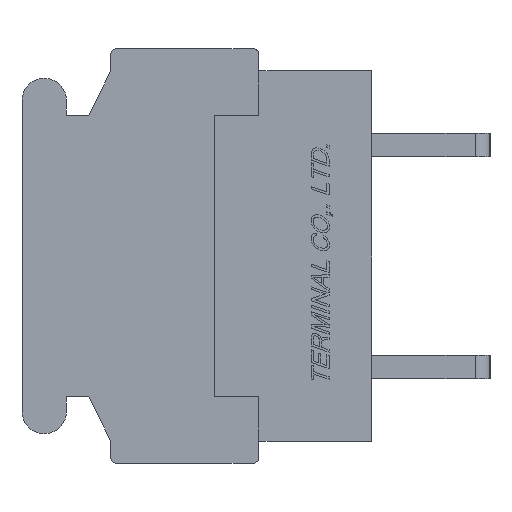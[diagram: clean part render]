
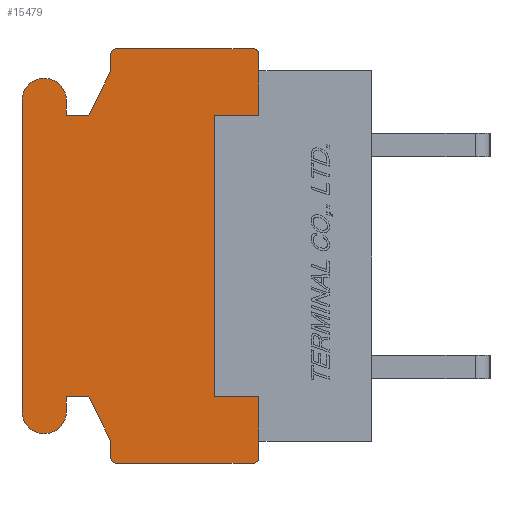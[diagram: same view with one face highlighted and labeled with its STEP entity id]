
A CAD part, left-side view. The second image highlights one B-rep face of the part: STEP entity #15479.
In plain terms, the highlighted planar face has unit normal (-1, 0, 0).
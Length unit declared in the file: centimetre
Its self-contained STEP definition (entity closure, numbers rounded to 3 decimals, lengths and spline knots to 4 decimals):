
#832=CIRCLE('',#26057,0.02);
#833=CIRCLE('',#26061,0.02);
#834=CIRCLE('',#26064,0.02);
#835=CIRCLE('',#26070,0.075);
#836=CIRCLE('',#26073,0.075);
#837=CIRCLE('',#26079,0.02);
#2028=VERTEX_POINT('',#23650);
#2029=VERTEX_POINT('',#23652);
#2030=VERTEX_POINT('',#23656);
#2031=VERTEX_POINT('',#23660);
#2032=VERTEX_POINT('',#23662);
#2033=VERTEX_POINT('',#23666);
#2034=VERTEX_POINT('',#23670);
#2035=VERTEX_POINT('',#23674);
#2036=VERTEX_POINT('',#23678);
#2037=VERTEX_POINT('',#23682);
#2038=VERTEX_POINT('',#23686);
#2039=VERTEX_POINT('',#23690);
#2040=VERTEX_POINT('',#23694);
#2041=VERTEX_POINT('',#23698);
#2042=VERTEX_POINT('',#23702);
#2043=VERTEX_POINT('',#23706);
#2044=VERTEX_POINT('',#23710);
#2045=VERTEX_POINT('',#23714);
#2046=VERTEX_POINT('',#23718);
#2047=VERTEX_POINT('',#23722);
#2048=VERTEX_POINT('',#23728);
#2049=VERTEX_POINT('',#23730);
#2050=VERTEX_POINT('',#23732);
#2051=VERTEX_POINT('',#23734);
#3702=VECTOR('',#18787,1.);
#3704=VECTOR('',#18790,1.);
#3708=VECTOR('',#18799,1.);
#3711=VECTOR('',#18807,1.);
#3713=VECTOR('',#18810,1.);
#3715=VECTOR('',#18813,1.);
#3717=VECTOR('',#18816,1.);
#3720=VECTOR('',#18824,1.);
#3723=VECTOR('',#18832,1.);
#3725=VECTOR('',#18835,1.);
#3727=VECTOR('',#18838,1.);
#3729=VECTOR('',#18841,1.);
#3731=VECTOR('',#18848,1.);
#3732=VECTOR('',#18850,1.);
#3733=VECTOR('',#18851,1.);
#3734=VECTOR('',#18852,1.);
#3735=VECTOR('',#18853,1.);
#3736=VECTOR('',#18854,1.);
#5454=LINE('',#23657,#3702);
#5456=LINE('',#23661,#3704);
#5460=LINE('',#23671,#3708);
#5463=LINE('',#23679,#3711);
#5465=LINE('',#23683,#3713);
#5467=LINE('',#23687,#3715);
#5469=LINE('',#23691,#3717);
#5472=LINE('',#23699,#3720);
#5475=LINE('',#23707,#3723);
#5477=LINE('',#23711,#3725);
#5479=LINE('',#23715,#3727);
#5481=LINE('',#23719,#3729);
#5483=LINE('',#23725,#3731);
#5484=LINE('',#23727,#3732);
#5485=LINE('',#23729,#3733);
#5486=LINE('',#23731,#3734);
#5487=LINE('',#23733,#3735);
#5488=LINE('',#23735,#3736);
#7682=EDGE_CURVE('',#2028,#2029,#832,.T.);
#7685=EDGE_CURVE('',#2030,#2028,#5454,.T.);
#7687=EDGE_CURVE('',#2031,#2032,#5456,.T.);
#7690=EDGE_CURVE('',#2033,#2031,#833,.T.);
#7692=EDGE_CURVE('',#2034,#2033,#5460,.T.);
#7694=EDGE_CURVE('',#2035,#2034,#834,.T.);
#7696=EDGE_CURVE('',#2036,#2035,#5463,.T.);
#7698=EDGE_CURVE('',#2037,#2036,#5465,.T.);
#7700=EDGE_CURVE('',#2038,#2037,#5467,.T.);
#7702=EDGE_CURVE('',#2039,#2038,#5469,.T.);
#7704=EDGE_CURVE('',#2040,#2039,#835,.T.);
#7706=EDGE_CURVE('',#2041,#2040,#5472,.T.);
#7708=EDGE_CURVE('',#2042,#2041,#836,.T.);
#7710=EDGE_CURVE('',#2043,#2042,#5475,.T.);
#7712=EDGE_CURVE('',#2044,#2043,#5477,.T.);
#7714=EDGE_CURVE('',#2045,#2044,#5479,.T.);
#7716=EDGE_CURVE('',#2046,#2045,#5481,.T.);
#7718=EDGE_CURVE('',#2047,#2046,#837,.T.);
#7719=EDGE_CURVE('',#2029,#2047,#5483,.T.);
#7720=EDGE_CURVE('',#2048,#2032,#5484,.T.);
#7721=EDGE_CURVE('',#2030,#2049,#5485,.T.);
#7722=EDGE_CURVE('',#2049,#2050,#5486,.T.);
#7723=EDGE_CURVE('',#2050,#2051,#5487,.T.);
#7724=EDGE_CURVE('',#2051,#2048,#5488,.T.);
#11816=ORIENTED_EDGE('',*,*,#7720,.T.);
#11817=ORIENTED_EDGE('',*,*,#7687,.F.);
#11818=ORIENTED_EDGE('',*,*,#7690,.F.);
#11819=ORIENTED_EDGE('',*,*,#7692,.F.);
#11820=ORIENTED_EDGE('',*,*,#7694,.F.);
#11821=ORIENTED_EDGE('',*,*,#7696,.F.);
#11822=ORIENTED_EDGE('',*,*,#7698,.F.);
#11823=ORIENTED_EDGE('',*,*,#7700,.F.);
#11824=ORIENTED_EDGE('',*,*,#7702,.F.);
#11825=ORIENTED_EDGE('',*,*,#7704,.F.);
#11826=ORIENTED_EDGE('',*,*,#7706,.F.);
#11827=ORIENTED_EDGE('',*,*,#7708,.F.);
#11828=ORIENTED_EDGE('',*,*,#7710,.F.);
#11829=ORIENTED_EDGE('',*,*,#7712,.F.);
#11830=ORIENTED_EDGE('',*,*,#7714,.F.);
#11831=ORIENTED_EDGE('',*,*,#7716,.F.);
#11832=ORIENTED_EDGE('',*,*,#7718,.F.);
#11833=ORIENTED_EDGE('',*,*,#7719,.F.);
#11834=ORIENTED_EDGE('',*,*,#7682,.F.);
#11835=ORIENTED_EDGE('',*,*,#7685,.F.);
#11836=ORIENTED_EDGE('',*,*,#7721,.T.);
#11837=ORIENTED_EDGE('',*,*,#7722,.T.);
#11838=ORIENTED_EDGE('',*,*,#7723,.T.);
#11839=ORIENTED_EDGE('',*,*,#7724,.T.);
#13635=EDGE_LOOP('',(#11816,#11817,#11818,#11819,#11820,#11821,#11822,#11823,
#11824,#11825,#11826,#11827,#11828,#11829,#11830,#11831,#11832,#11833,#11834,
#11835,#11836,#11837,#11838,#11839));
#14581=FACE_BOUND('',#13635,.T.);
#15479=ADVANCED_FACE('',(#14581),#16147,.F.);
#16147=PLANE('',#26081);
#18782=DIRECTION('',(1.,0.,0.));
#18783=DIRECTION('',(0.,0.,-0.02));
#18787=DIRECTION('',(0.,0.,-1.));
#18790=DIRECTION('',(0.,0.,-1.));
#18795=DIRECTION('',(1.,0.,0.));
#18796=DIRECTION('',(0.,0.,-0.02));
#18799=DIRECTION('',(0.,-1.,0.));
#18803=DIRECTION('',(1.,0.,0.));
#18804=DIRECTION('',(0.,0.,-0.02));
#18807=DIRECTION('',(0.,0.,1.));
#18810=DIRECTION('',(0.,-0.447,0.894));
#18813=DIRECTION('',(0.,-1.,0.));
#18816=DIRECTION('',(0.,0.,-1.));
#18820=DIRECTION('',(1.,0.,0.));
#18821=DIRECTION('',(0.,0.,-0.075));
#18824=DIRECTION('',(0.,0.,1.));
#18828=DIRECTION('',(1.,0.,0.));
#18829=DIRECTION('',(0.,0.,-0.075));
#18832=DIRECTION('',(0.,0.,-1.));
#18835=DIRECTION('',(0.,1.,0.));
#18838=DIRECTION('',(0.,0.447,0.894));
#18841=DIRECTION('',(0.,0.,1.));
#18845=DIRECTION('',(1.,0.,0.));
#18846=DIRECTION('',(0.,0.,-0.02));
#18848=DIRECTION('',(0.,1.,0.));
#18849=DIRECTION('',(1.,0.,0.));
#18850=DIRECTION('',(0.,0.,1.));
#18851=DIRECTION('',(0.,0.,1.));
#18852=DIRECTION('',(0.,1.,0.));
#18853=DIRECTION('',(0.,0.,1.));
#18854=DIRECTION('',(0.,-1.,0.));
#23650=CARTESIAN_POINT('',(-0.762,0.38,-0.68));
#23651=CARTESIAN_POINT('',(-0.762,0.4,-0.68));
#23652=CARTESIAN_POINT('',(-0.762,0.4,-0.7));
#23656=CARTESIAN_POINT('',(-0.762,0.38,-0.625));
#23657=CARTESIAN_POINT('',(-0.762,0.38,-0.625));
#23660=CARTESIAN_POINT('',(-0.762,0.38,0.68));
#23661=CARTESIAN_POINT('',(-0.762,0.38,0.68));
#23662=CARTESIAN_POINT('',(-0.762,0.38,0.625));
#23666=CARTESIAN_POINT('',(-0.762,0.4,0.7));
#23667=CARTESIAN_POINT('',(-0.762,0.4,0.68));
#23670=CARTESIAN_POINT('',(-0.762,0.86,0.7));
#23671=CARTESIAN_POINT('',(-0.762,0.86,0.7));
#23674=CARTESIAN_POINT('',(-0.762,0.88,0.68));
#23675=CARTESIAN_POINT('',(-0.762,0.86,0.68));
#23678=CARTESIAN_POINT('',(-0.762,0.88,0.625));
#23679=CARTESIAN_POINT('',(-0.762,0.88,0.625));
#23682=CARTESIAN_POINT('',(-0.762,0.955,0.475));
#23683=CARTESIAN_POINT('',(-0.762,0.955,0.475));
#23686=CARTESIAN_POINT('',(-0.762,1.03,0.475));
#23687=CARTESIAN_POINT('',(-0.762,1.03,0.475));
#23690=CARTESIAN_POINT('',(-0.762,1.03,0.525));
#23691=CARTESIAN_POINT('',(-0.762,1.03,0.525));
#23694=CARTESIAN_POINT('',(-0.762,1.18,0.525));
#23695=CARTESIAN_POINT('',(-0.762,1.105,0.525));
#23698=CARTESIAN_POINT('',(-0.762,1.18,-0.525));
#23699=CARTESIAN_POINT('',(-0.762,1.18,-0.525));
#23702=CARTESIAN_POINT('',(-0.762,1.03,-0.525));
#23703=CARTESIAN_POINT('',(-0.762,1.105,-0.525));
#23706=CARTESIAN_POINT('',(-0.762,1.03,-0.475));
#23707=CARTESIAN_POINT('',(-0.762,1.03,-0.475));
#23710=CARTESIAN_POINT('',(-0.762,0.955,-0.475));
#23711=CARTESIAN_POINT('',(-0.762,0.955,-0.475));
#23714=CARTESIAN_POINT('',(-0.762,0.88,-0.625));
#23715=CARTESIAN_POINT('',(-0.762,0.88,-0.625));
#23718=CARTESIAN_POINT('',(-0.762,0.88,-0.68));
#23719=CARTESIAN_POINT('',(-0.762,0.88,-0.68));
#23722=CARTESIAN_POINT('',(-0.762,0.86,-0.7));
#23723=CARTESIAN_POINT('',(-0.762,0.86,-0.68));
#23725=CARTESIAN_POINT('',(-0.762,0.4,-0.7));
#23726=CARTESIAN_POINT('',(-0.762,0.6059,0.));
#23727=CARTESIAN_POINT('',(-0.762,0.38,0.475));
#23728=CARTESIAN_POINT('',(-0.762,0.38,0.475));
#23729=CARTESIAN_POINT('',(-0.762,0.38,-0.625));
#23730=CARTESIAN_POINT('',(-0.762,0.38,-0.475));
#23731=CARTESIAN_POINT('',(-0.762,0.38,-0.475));
#23732=CARTESIAN_POINT('',(-0.762,0.53,-0.475));
#23733=CARTESIAN_POINT('',(-0.762,0.53,-0.475));
#23734=CARTESIAN_POINT('',(-0.762,0.53,0.475));
#23735=CARTESIAN_POINT('',(-0.762,0.53,0.475));
#26057=AXIS2_PLACEMENT_3D('',#23651,#18782,#18783);
#26061=AXIS2_PLACEMENT_3D('',#23667,#18795,#18796);
#26064=AXIS2_PLACEMENT_3D('',#23675,#18803,#18804);
#26070=AXIS2_PLACEMENT_3D('',#23695,#18820,#18821);
#26073=AXIS2_PLACEMENT_3D('',#23703,#18828,#18829);
#26079=AXIS2_PLACEMENT_3D('',#23723,#18845,#18846);
#26081=AXIS2_PLACEMENT_3D('',#23726,#18849,$);
